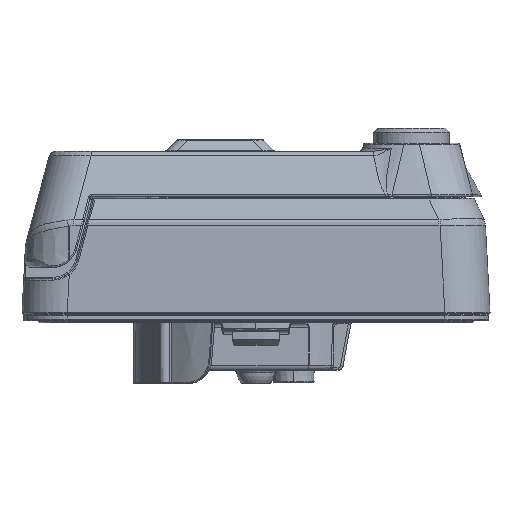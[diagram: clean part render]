
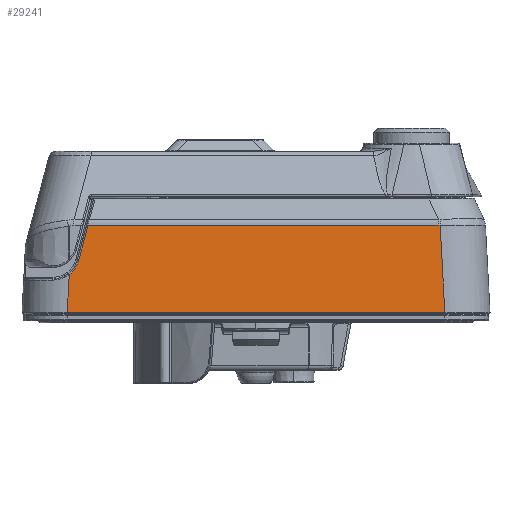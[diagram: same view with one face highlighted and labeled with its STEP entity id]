
A CAD part, left-side view. The second image highlights one B-rep face of the part: STEP entity #29241.
In plain terms, the highlighted planar face has unit normal (-0.999, 0, 0.052).
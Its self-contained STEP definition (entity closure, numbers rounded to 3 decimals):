
#3490=CARTESIAN_POINT('',(-44.983,-37.496,
-0.884));
#3495=CARTESIAN_POINT('',(-44.079,-36.591,
16.372));
#3519=DIRECTION('',(0.,1.,0.));
#3520=VECTOR('',#3519,74.992);
#3521=CARTESIAN_POINT('',(-44.983,-37.496,
-0.884));
#3522=LINE('5619',#3521,#3520);
#3526=CARTESIAN_POINT('',(-44.442,35.216,9.444));
#3527=CARTESIAN_POINT('',(-44.452,35.266,9.258));
#3528=CARTESIAN_POINT('',(-44.471,35.385,8.894));
#3529=CARTESIAN_POINT('',(-44.499,35.624,8.366));
#3530=CARTESIAN_POINT('',(-44.525,35.919,7.867));
#3531=CARTESIAN_POINT('',(-44.549,36.266,7.403));
#3532=CARTESIAN_POINT('',(-44.571,36.662,6.981));
#3533=CARTESIAN_POINT('',(-44.584,36.951,6.732));
#3534=CARTESIAN_POINT('',(-44.59,37.103,6.616));
#3539=DIRECTION('',(-0.051,0.258,-0.965));
#3540=VECTOR('',#3539,7.196);
#3541=CARTESIAN_POINT('',(-44.078,33.356,16.386));
#3542=LINE('5584',#3541,#3540);
#3546=DIRECTION('',(0.,-1.,0.));
#3547=VECTOR('',#3546,69.658);
#3548=CARTESIAN_POINT('',(-44.078,33.356,16.386));
#3549=LINE('5591',#3548,#3547);
#3553=CARTESIAN_POINT('',(-44.078,-36.302,
16.386));
#3554=CARTESIAN_POINT('',(-44.078,-36.333,
16.386));
#3555=CARTESIAN_POINT('',(-44.078,-36.395,
16.385));
#3556=CARTESIAN_POINT('',(-44.079,-36.492,
16.38));
#3557=CARTESIAN_POINT('',(-44.079,-36.558,
16.375));
#3558=CARTESIAN_POINT('',(-44.079,-36.591,
16.372));
#3563=DIRECTION('',(0.052,0.052,0.997));
#3564=VECTOR('',#3563,17.304);
#3565=CARTESIAN_POINT('',(-44.983,-37.496,
-0.884));
#3566=LINE('5622',#3565,#3564);
#3570=CARTESIAN_POINT('',(-44.983,37.496,
-0.884));
#3614=CARTESIAN_POINT('',(-44.59,37.103,6.616));
#3628=DIRECTION('',(-0.052,0.052,-0.997));
#3629=VECTOR('',#3628,7.521);
#3630=CARTESIAN_POINT('',(-44.59,37.103,6.616));
#3631=LINE('5627',#3630,#3629);
#24085=VERTEX_POINT('',#3495);
#24087=VERTEX_POINT('',#3553);
#24106=VERTEX_POINT('',#3614);
#24108=VERTEX_POINT('',#3526);
#24110=CARTESIAN_POINT('',(-44.078,33.356,
16.386));
#24111=VERTEX_POINT('',#24110);
#24118=VERTEX_POINT('',#3570);
#24141=VERTEX_POINT('',#3490);
#29222=CARTESIAN_POINT('',(-45.,46.5,-1.2));
#29223=DIRECTION('',(-0.999,0.,0.052));
#29224=DIRECTION('',(0.,-1.,0.));
#29225=AXIS2_PLACEMENT_3D('',#29222,#29223,#29224);
#29226=PLANE('3927',#29225);
#29227=ORIENTED_EDGE('5619',*,*,#28759,.T.);
#29229=ORIENTED_EDGE('5627',*,*,#29228,.F.);
#29231=ORIENTED_EDGE('5582',*,*,#29230,.F.);
#29233=ORIENTED_EDGE('5584',*,*,#29232,.F.);
#29235=ORIENTED_EDGE('5591',*,*,#29234,.T.);
#29237=ORIENTED_EDGE('5559',*,*,#29236,.T.);
#29238=ORIENTED_EDGE('5622',*,*,#29207,.F.);
#29239=EDGE_LOOP('3927',(#29227,#29229,#29231,#29233,#29235,#29237,#29238));
#29240=FACE_OUTER_BOUND('3927',#29239,.F.);
#3535=B_SPLINE_CURVE_WITH_KNOTS('5582',3,(#3526,#3527,#3528,#3529,#3530,#3531,
#3532,#3533,#3534),.UNSPECIFIED.,.F.,.F.,(4,1,1,1,1,1,4),(0.,
0.167,0.333,0.5,0.667,0.833,
1.),.UNSPECIFIED.);
#3559=B_SPLINE_CURVE_WITH_KNOTS('5559',3,(#3553,#3554,#3555,#3556,#3557,#3558),
.UNSPECIFIED.,.F.,.F.,(4,1,1,4),(0.,0.333,0.667,1.),
.UNSPECIFIED.);
#28759=EDGE_CURVE('5619',#24141,#24118,#3522,.T.);
#29207=EDGE_CURVE('5622',#24141,#24085,#3566,.T.);
#29228=EDGE_CURVE('5627',#24106,#24118,#3631,.T.);
#29230=EDGE_CURVE('5582',#24108,#24106,#3535,.T.);
#29232=EDGE_CURVE('5584',#24111,#24108,#3542,.T.);
#29234=EDGE_CURVE('5591',#24111,#24087,#3549,.T.);
#29236=EDGE_CURVE('5559',#24087,#24085,#3559,.T.);
#29241=ADVANCED_FACE('3927',(#29240),#29226,.T.);
